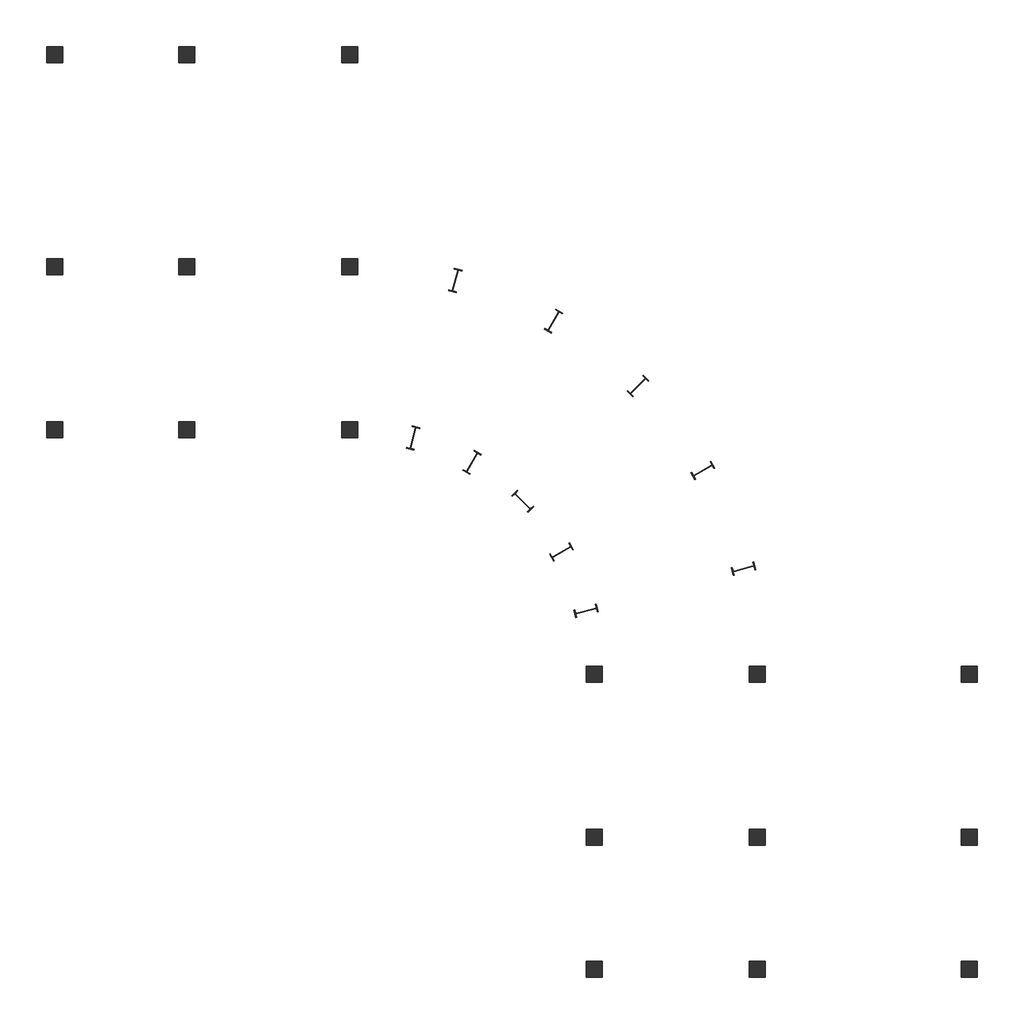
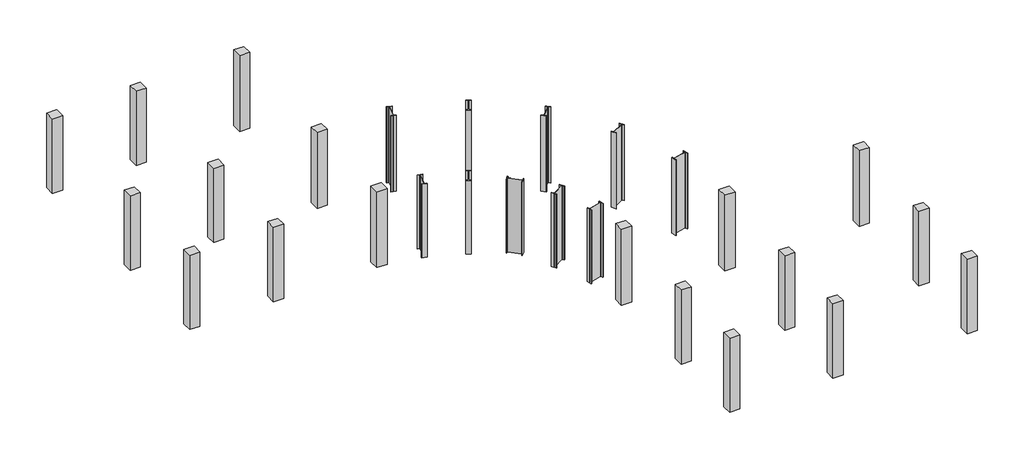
# One storey: 28 columns.
"""IFC4 building model written with IfcOpenShell, lengths in millimetres."""

from ifc_helpers import new_model, si_unit, frame, origin, place, context, project, spatial, polyline, outline, extrude, transform, mapped, element, save
from components import w840x251_bc5ce94e, w840x251_8ab659da

model = new_model("IFC4")

# Units and contexts
model_context = context("Model", 3, world=origin())
ifc_project = project(units=[si_unit("LENGTHUNIT", "METRE", prefix="MILLI")], contexts=[model_context])

# Site, building, storey
site = spatial("IfcSite", under=ifc_project)
building = spatial("IfcBuilding", under=site)
storey = spatial("IfcBuildingStorey", under=building, Name="T.O.F", Elevation=-1677.0)

# Columns
placement = place(None, origin())
element("IfcColumn", 1, ObjectType="M_Concrete-Rectangular-Column : 600 x 600mm", at=placement, inside=storey, context=model_context, shape_type="SweptSolid", body=[
    extrude(outline(polyline([(-21844.300634, -10058.8363965), (-21844.300634, -9458.8363965), (-21244.300634, -9458.8363965), (-21244.300634, -10058.8363965), (-21844.300634, -10058.8363965)])), frame((0.0, 0.0, -1677.0), z_axis=(0.0, 0.0, 1.0), x_axis=(1.0, 0.0, 0.0)), (0.0, 0.0, 1.0), 4635.0),
])
element("IfcColumn", 2, ObjectType="M_Concrete-Rectangular-Column : 600 x 600mm", at=placement, inside=storey, context=model_context, shape_type="SweptSolid", body=[
    extrude(outline(polyline([(-21844.300634, -3962.8363965), (-21844.300634, -3362.8363965), (-21244.300634, -3362.8363965), (-21244.300634, -3962.8363965), (-21844.300634, -3962.8363965)])), frame((0.0, 0.0, -1677.0), z_axis=(0.0, 0.0, 1.0), x_axis=(1.0, 0.0, 0.0)), (0.0, 0.0, 1.0), 4635.0),
])
element("IfcColumn", 3, ObjectType="M_Concrete-Rectangular-Column : 600 x 600mm", at=placement, inside=storey, context=model_context, shape_type="SweptSolid", body=[
    extrude(outline(polyline([(-21844.300634, 3962.1636035), (-21844.300634, 4562.1636035), (-21244.300634, 4562.1636035), (-21244.300634, 3962.1636035), (-21844.300634, 3962.1636035)])), frame((0.0, 0.0, -1677.0), z_axis=(0.0, 0.0, 1.0), x_axis=(1.0, 0.0, 0.0)), (0.0, 0.0, 1.0), 4635.0),
])
element("IfcColumn", 4, ObjectType="M_Concrete-Rectangular-Column : 600 x 600mm", at=placement, inside=storey, context=model_context, shape_type="SweptSolid", body=[
    extrude(outline(polyline([(-16904.9035319, -10058.8363965), (-16904.9035319, -9458.8363965), (-16304.9035319, -9458.8363965), (-16304.9035319, -10058.8363965), (-16904.9035319, -10058.8363965)])), frame((0.0, 0.0, -1677.0), z_axis=(0.0, 0.0, 1.0), x_axis=(1.0, 0.0, 0.0)), (0.0, 0.0, 1.0), 4635.0),
])
element("IfcColumn", 5, ObjectType="M_Concrete-Rectangular-Column : 600 x 600mm", at=placement, inside=storey, context=model_context, shape_type="SweptSolid", body=[
    extrude(outline(polyline([(-16904.9035319, -3962.8363965), (-16904.9035319, -3362.8363965), (-16304.9035319, -3362.8363965), (-16304.9035319, -3962.8363965), (-16904.9035319, -3962.8363965)])), frame((0.0, 0.0, -1677.0), z_axis=(0.0, 0.0, 1.0), x_axis=(1.0, 0.0, 0.0)), (0.0, 0.0, 1.0), 4635.0),
])
element("IfcColumn", 6, ObjectType="M_Concrete-Rectangular-Column : 600 x 600mm", at=placement, inside=storey, context=model_context, shape_type="SweptSolid", body=[
    extrude(outline(polyline([(-16904.9035319, 3962.1636035), (-16904.9035319, 4562.1636035), (-16304.9035319, 4562.1636035), (-16304.9035319, 3962.1636035), (-16904.9035319, 3962.1636035)])), frame((0.0, 0.0, -1677.0), z_axis=(0.0, 0.0, 1.0), x_axis=(1.0, 0.0, 0.0)), (0.0, 0.0, 1.0), 4635.0),
])
element("IfcColumn", 7, ObjectType="M_Concrete-Rectangular-Column : 600 x 600mm", at=placement, inside=storey, context=model_context, shape_type="SweptSolid", body=[
    extrude(outline(polyline([(-10808.9035319, -10058.8363965), (-10808.9035319, -9458.8363965), (-10208.9035319, -9458.8363965), (-10208.9035319, -10058.8363965), (-10808.9035319, -10058.8363965)])), frame((0.0, 0.0, -1677.0), z_axis=(0.0, 0.0, 1.0), x_axis=(1.0, 0.0, 0.0)), (0.0, 0.0, 1.0), 4725.0),
])
element("IfcColumn", 8, ObjectType="M_Concrete-Rectangular-Column : 600 x 600mm", at=placement, inside=storey, context=model_context, shape_type="SweptSolid", body=[
    extrude(outline(polyline([(-10808.9035319, -3962.8363965), (-10808.9035319, -3362.8363965), (-10208.9035319, -3362.8363965), (-10208.9035319, -3962.8363965), (-10808.9035319, -3962.8363965)])), frame((0.0, 0.0, -1677.0), z_axis=(0.0, 0.0, 1.0), x_axis=(1.0, 0.0, 0.0)), (0.0, 0.0, 1.0), 4725.0),
])
element("IfcColumn", 9, ObjectType="M_Concrete-Rectangular-Column : 600 x 600mm", at=placement, inside=storey, context=model_context, shape_type="SweptSolid", body=[
    extrude(outline(polyline([(-10808.9035319, 3962.1636035), (-10808.9035319, 4562.1636035), (-10208.9035319, 4562.1636035), (-10208.9035319, 3962.1636035), (-10808.9035319, 3962.1636035)])), frame((0.0, 0.0, -1677.0), z_axis=(0.0, 0.0, 1.0), x_axis=(1.0, 0.0, 0.0)), (0.0, 0.0, 1.0), 4725.0),
])
element("IfcColumn", 10, ObjectType="M_Concrete-Rectangular-Column : 600 x 600mm", at=placement, inside=storey, context=model_context, shape_type="SweptSolid", body=[
    extrude(outline(polyline([(-1064.9035319, -30238.2334986), (-1664.9035319, -30238.2334986), (-1664.9035319, -29638.2334986), (-1064.9035319, -29638.2334986), (-1064.9035319, -30238.2334986)])), frame((0.0, 0.0, -1677.0), z_axis=(0.0, 0.0, 1.0), x_axis=(1.0, 0.0, 0.0)), (0.0, 0.0, 1.0), 4635.0),
])
element("IfcColumn", 11, ObjectType="M_Concrete-Rectangular-Column : 600 x 600mm", at=placement, inside=storey, context=model_context, shape_type="SweptSolid", body=[
    extrude(outline(polyline([(5031.0964681, -30238.2334986), (4431.0964681, -30238.2334986), (4431.0964681, -29638.2334986), (5031.0964681, -29638.2334986), (5031.0964681, -30238.2334986)])), frame((0.0, 0.0, -1677.0), z_axis=(0.0, 0.0, 1.0), x_axis=(1.0, 0.0, 0.0)), (0.0, 0.0, 1.0), 4635.0),
])
element("IfcColumn", 12, ObjectType="M_Concrete-Rectangular-Column : 600 x 600mm", at=placement, inside=storey, context=model_context, shape_type="SweptSolid", body=[
    extrude(outline(polyline([(12956.0964681, -30238.2334986), (12356.0964681, -30238.2334986), (12356.0964681, -29638.2334986), (12956.0964681, -29638.2334986), (12956.0964681, -30238.2334986)])), frame((0.0, 0.0, -1677.0), z_axis=(0.0, 0.0, 1.0), x_axis=(1.0, 0.0, 0.0)), (0.0, 0.0, 1.0), 4635.0),
])
element("IfcColumn", 13, ObjectType="M_Concrete-Rectangular-Column : 600 x 600mm", at=placement, inside=storey, context=model_context, shape_type="SweptSolid", body=[
    extrude(outline(polyline([(-1064.9035319, -25298.8363965), (-1664.9035319, -25298.8363965), (-1664.9035319, -24698.8363965), (-1064.9035319, -24698.8363965), (-1064.9035319, -25298.8363965)])), frame((0.0, 0.0, -1677.0), z_axis=(0.0, 0.0, 1.0), x_axis=(1.0, 0.0, 0.0)), (0.0, 0.0, 1.0), 4635.0),
])
element("IfcColumn", 14, ObjectType="M_Concrete-Rectangular-Column : 600 x 600mm", at=placement, inside=storey, context=model_context, shape_type="SweptSolid", body=[
    extrude(outline(polyline([(5031.0964681, -25298.8363965), (4431.0964681, -25298.8363965), (4431.0964681, -24698.8363965), (5031.0964681, -24698.8363965), (5031.0964681, -25298.8363965)])), frame((0.0, 0.0, -1677.0), z_axis=(0.0, 0.0, 1.0), x_axis=(1.0, 0.0, 0.0)), (0.0, 0.0, 1.0), 4635.0),
])
element("IfcColumn", 15, ObjectType="M_Concrete-Rectangular-Column : 600 x 600mm", at=placement, inside=storey, context=model_context, shape_type="SweptSolid", body=[
    extrude(outline(polyline([(12956.0964681, -25298.8363965), (12356.0964681, -25298.8363965), (12356.0964681, -24698.8363965), (12956.0964681, -24698.8363965), (12956.0964681, -25298.8363965)])), frame((0.0, 0.0, -1677.0), z_axis=(0.0, 0.0, 1.0), x_axis=(1.0, 0.0, 0.0)), (0.0, 0.0, 1.0), 4635.0),
])
element("IfcColumn", 16, ObjectType="M_Concrete-Rectangular-Column : 600 x 600mm", at=placement, inside=storey, context=model_context, shape_type="SweptSolid", body=[
    extrude(outline(polyline([(-1664.9035319, -19202.8363965), (-1664.9035319, -18602.8363965), (-1064.9035319, -18602.8363965), (-1064.9035319, -19202.8363965), (-1664.9035319, -19202.8363965)])), frame((0.0, 0.0, -1677.0), z_axis=(0.0, 0.0, 1.0), x_axis=(1.0, 0.0, 0.0)), (0.0, 0.0, 1.0), 4725.0),
])
element("IfcColumn", 17, ObjectType="M_Concrete-Rectangular-Column : 600 x 600mm", at=placement, inside=storey, context=model_context, shape_type="SweptSolid", body=[
    extrude(outline(polyline([(4431.0964681, -19202.8363965), (4431.0964681, -18602.8363965), (5031.0964681, -18602.8363965), (5031.0964681, -19202.8363965), (4431.0964681, -19202.8363965)])), frame((0.0, 0.0, -1677.0), z_axis=(0.0, 0.0, 1.0), x_axis=(1.0, 0.0, 0.0)), (0.0, 0.0, 1.0), 4725.0),
])
element("IfcColumn", 18, ObjectType="M_Concrete-Rectangular-Column : 600 x 600mm", at=placement, inside=storey, context=model_context, shape_type="SweptSolid", body=[
    extrude(outline(polyline([(12356.0964681, -19202.8363965), (12356.0964681, -18602.8363965), (12956.0964681, -18602.8363965), (12956.0964681, -19202.8363965), (12356.0964681, -19202.8363965)])), frame((0.0, 0.0, -1677.0), z_axis=(0.0, 0.0, 1.0), x_axis=(1.0, 0.0, 0.0)), (0.0, 0.0, 1.0), 4725.0),
])
w840x251_shape = w840x251_bc5ce94e(model_context)
element("IfcColumn", 19, ObjectType="M_W-Wide Flange-Column : W840X251", at=placement, inside=storey, context=model_context, shape_type="MappedRepresentation", body=[
    mapped(w840x251_shape, transform((4211.8060608, -14958.4341491, 0.0), x_axis=(-0.25881904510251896, 0.9659258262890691, 0.0), y_axis=(-0.9659258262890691, -0.25881904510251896, 0.0), z_axis=(0.0, 0.0, 1.0))),
])
element("IfcColumn", 20, ObjectType="M_W-Wide Flange-Column : W840X251", at=placement, inside=storey, context=model_context, shape_type="MappedRepresentation", body=[
    mapped(w840x251_shape, transform((2689.3236218, -11282.8363965, 0.0), x_axis=(-0.4999999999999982, 0.8660254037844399, 0.0), y_axis=(-0.8660254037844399, -0.4999999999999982, 0.0), z_axis=(0.0, 0.0, 1.0))),
])
element("IfcColumn", 21, ObjectType="M_W-Wide Flange-Column : W840X251", at=placement, inside=storey, context=model_context, shape_type="MappedRepresentation", body=[
    mapped(w840x251_shape, transform((267.4038134, -8126.5290512, 0.0), x_axis=(0.7071067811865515, -0.7071067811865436, 0.0), y_axis=(0.7071067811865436, 0.7071067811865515, 0.0), z_axis=(0.0, 0.0, 1.0))),
])
element("IfcColumn", 22, ObjectType="M_W-Wide Flange-Column : W840X251", at=placement, inside=storey, context=model_context, shape_type="MappedRepresentation", body=[
    mapped(w840x251_shape, transform((-2888.9035319, -5704.6092428, 0.0), x_axis=(0.8660254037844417, -0.49999999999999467, 0.0), y_axis=(0.49999999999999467, 0.8660254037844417, 0.0), z_axis=(0.0, 0.0, 1.0))),
])
element("IfcColumn", 23, ObjectType="M_W-Wide Flange-Column : W840X251", at=placement, inside=storey, context=model_context, shape_type="MappedRepresentation", body=[
    mapped(w840x251_shape, transform((-6564.5012845, -4182.1268039, 0.0), x_axis=(0.9659258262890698, -0.25881904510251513, 0.0), y_axis=(0.25881904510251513, 0.9659258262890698, 0.0), z_axis=(0.0, 0.0, 1.0))),
])
w840x251_2_shape = w840x251_8ab659da(model_context)
element("IfcColumn", 24, ObjectType="M_W-Wide Flange-Column : W840X251", at=placement, inside=storey, context=model_context, shape_type="MappedRepresentation", body=[
    mapped(w840x251_2_shape, transform((-1676.4777763, -16536.1950481, 0.0), x_axis=(-0.25881904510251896, 0.9659258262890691, 0.0), y_axis=(-0.9659258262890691, -0.25881904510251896, 0.0), z_axis=(0.0, 0.0, 1.0))),
])
element("IfcColumn", 25, ObjectType="M_W-Wide Flange-Column : W840X251", at=placement, inside=storey, context=model_context, shape_type="MappedRepresentation", body=[
    mapped(w840x251_2_shape, transform((-2589.9672396, -14330.8363965, 0.0), x_axis=(-0.4999999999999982, 0.8660254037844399, 0.0), y_axis=(-0.8660254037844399, -0.4999999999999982, 0.0), z_axis=(0.0, 0.0, 1.0))),
])
element("IfcColumn", 26, ObjectType="M_W-Wide Flange-Column : W840X251", at=placement, inside=storey, context=model_context, shape_type="MappedRepresentation", body=[
    mapped(w840x251_2_shape, transform((-4043.1191247, -12437.0519893, 0.0), x_axis=(0.7071067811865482, 0.7071067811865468, 0.0), y_axis=(-0.7071067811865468, 0.7071067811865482, 0.0), z_axis=(0.0, 0.0, 1.0))),
])
element("IfcColumn", 27, ObjectType="M_W-Wide Flange-Column : W840X251", at=placement, inside=storey, context=model_context, shape_type="MappedRepresentation", body=[
    mapped(w840x251_2_shape, transform((-5936.9035319, -10983.9001043, 0.0), x_axis=(0.8660254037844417, -0.49999999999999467, 0.0), y_axis=(0.49999999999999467, 0.8660254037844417, 0.0), z_axis=(0.0, 0.0, 1.0))),
])
element("IfcColumn", 28, ObjectType="M_W-Wide Flange-Column : W840X251", at=placement, inside=storey, context=model_context, shape_type="MappedRepresentation", body=[
    mapped(w840x251_2_shape, transform((-8142.2621834, -10070.4106409, 0.0), x_axis=(0.9659258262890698, -0.25881904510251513, 0.0), y_axis=(0.25881904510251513, 0.9659258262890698, 0.0), z_axis=(0.0, 0.0, 1.0))),
])

save(model, "model.ifc")
